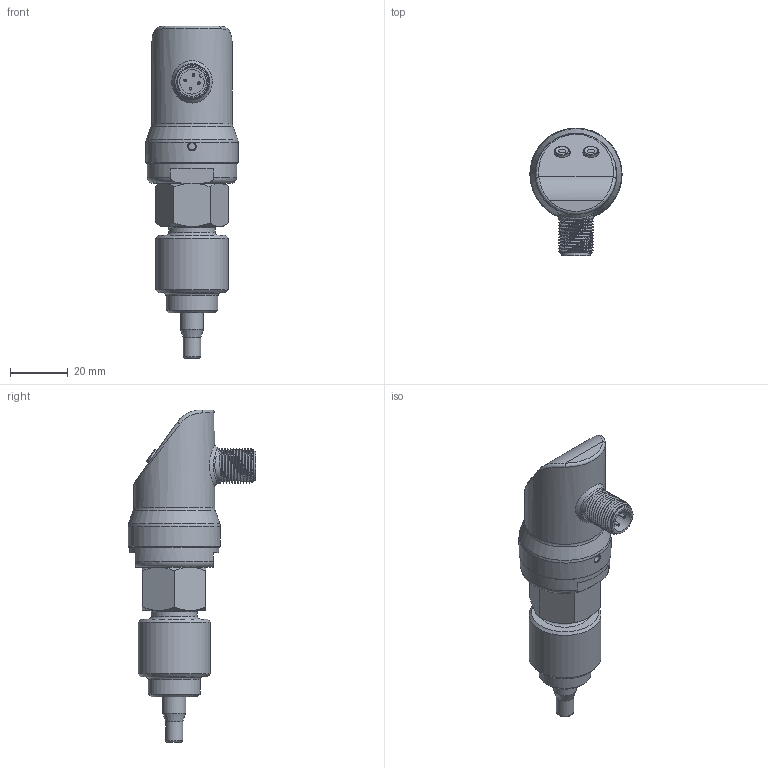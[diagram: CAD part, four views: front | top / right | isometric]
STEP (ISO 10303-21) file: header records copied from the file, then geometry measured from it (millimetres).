
FILE_DESCRIPTION( (''), '2;1');
FILE_NAME( 'QSKE_M18_L60_weld-socket.step', '2026-08-14T11:34:49+08:00', (''), (''), '', '', '');
FILE_SCHEMA (('AUTOMOTIVE_DESIGN { 1 0 10303 214 3 1 1 1 }'));
Length unit declared in the file: millimetre
Products named in the file (1): QSKE M18_L60_weld-socket
Bounding box: 32 x 44.35 x 115.1 mm (x, y, z)
Volume: 35068.4 mm3; surface area: 23186.5 mm2
Topology: 9 solids, 11 shells, 285 faces, 668 edges, 435 vertices
Faces by surface type: plane 120, cylinder 63, cone 49, torus 30, bspline 21, extrusion 2
Full cylindrical faces by diameter (mm): 0.9 x8, 2 x4, 2.5 x1, 5.2 x2, 5.6 x2, 6 x2, 6.5 x1, 8 x2, 8.5 x1, 9.8 x2, 10 x1, 12 x1, 13.4 x1, 13.7 x1, 15.4 x1, 16 x1, 16.1 x1, 16.5 x3, 18 x1, 25 x1, 27 x1, 28 x1, 31 x1, 32 x1
Entity records: 11944 total; most frequent: CARTESIAN_POINT 6049, DIRECTION 1148, ORIENTED_EDGE 1068, EDGE_CURVE 534, AXIS2_PLACEMENT_3D 486, EDGE_LOOP 411, VERTEX_POINT 393, ADVANCED_FACE 282
